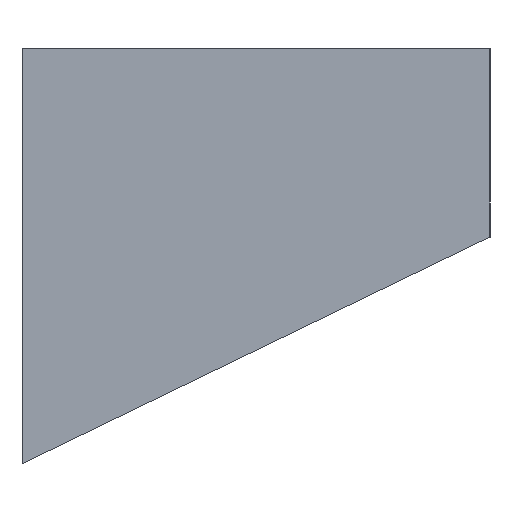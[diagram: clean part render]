
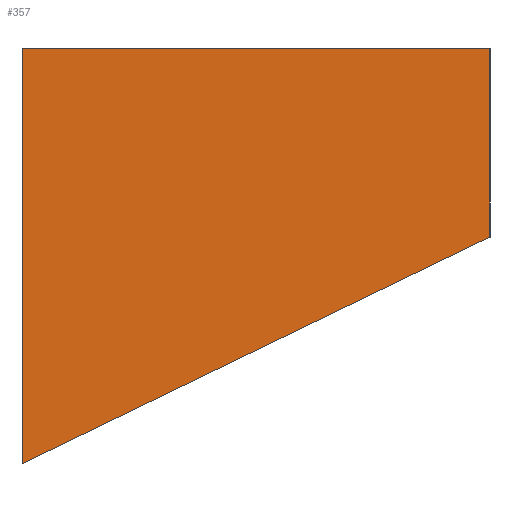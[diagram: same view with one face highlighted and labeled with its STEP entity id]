
A CAD part, left-side view. The second image highlights one B-rep face of the part: STEP entity #357.
In plain terms, the highlighted planar face has unit normal (-1, 0, 0).
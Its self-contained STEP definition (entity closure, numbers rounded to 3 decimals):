
#48 = VERTEX_POINT('',#49);
#49 = CARTESIAN_POINT('',(-36.,-36.5,-114.5));
#58 = PLANE('',#59);
#59 = AXIS2_PLACEMENT_3D('',#60,#61,#62);
#60 = CARTESIAN_POINT('',(-36.,-36.5,-114.5));
#61 = DIRECTION('',(0.,-1.,0.));
#62 = DIRECTION('',(0.,0.,1.));
#70 = PLANE('',#71);
#71 = AXIS2_PLACEMENT_3D('',#72,#73,#74);
#72 = CARTESIAN_POINT('',(-36.,-30.3,-117.5));
#73 = DIRECTION('',(0.,-0.436,-0.9));
#74 = DIRECTION('',(0.,-0.9,0.436));
#111 = VERTEX_POINT('',#112);
#112 = CARTESIAN_POINT('',(-36.,-36.5,-112.));
#126 = PLANE('',#127);
#127 = AXIS2_PLACEMENT_3D('',#128,#129,#130);
#128 = CARTESIAN_POINT('',(-36.,-36.5,-112.));
#129 = DIRECTION('',(0.,0.,1.));
#130 = DIRECTION('',(0.,1.,0.));
#138 = EDGE_CURVE('',#48,#111,#139,.T.);
#139 = SURFACE_CURVE('',#140,(#144,#151),.PCURVE_S1.);
#140 = LINE('',#141,#142);
#141 = CARTESIAN_POINT('',(-36.,-36.5,-114.5));
#142 = VECTOR('',#143,1.);
#143 = DIRECTION('',(0.,0.,1.));
#144 = PCURVE('',#58,#145);
#145 = DEFINITIONAL_REPRESENTATION('',(#146),#150);
#146 = LINE('',#147,#148);
#147 = CARTESIAN_POINT('',(0.,0.));
#148 = VECTOR('',#149,1.);
#149 = DIRECTION('',(1.,0.));
#150 = ( GEOMETRIC_REPRESENTATION_CONTEXT(2) 
PARAMETRIC_REPRESENTATION_CONTEXT() REPRESENTATION_CONTEXT('2D SPACE',''
  ) );
#151 = PCURVE('',#152,#157);
#152 = PLANE('',#153);
#153 = AXIS2_PLACEMENT_3D('',#154,#155,#156);
#154 = CARTESIAN_POINT('',(-36.,-32.959,-114.172));
#155 = DIRECTION('',(-1.,-0.,-0.));
#156 = DIRECTION('',(0.,0.,-1.));
#157 = DEFINITIONAL_REPRESENTATION('',(#158),#162);
#158 = LINE('',#159,#160);
#159 = CARTESIAN_POINT('',(0.328,3.541));
#160 = VECTOR('',#161,1.);
#161 = DIRECTION('',(-1.,0.));
#162 = ( GEOMETRIC_REPRESENTATION_CONTEXT(2) 
PARAMETRIC_REPRESENTATION_CONTEXT() REPRESENTATION_CONTEXT('2D SPACE',''
  ) );
#192 = VERTEX_POINT('',#193);
#193 = CARTESIAN_POINT('',(-36.,-30.3,-112.));
#207 = PLANE('',#208);
#208 = AXIS2_PLACEMENT_3D('',#209,#210,#211);
#209 = CARTESIAN_POINT('',(-36.,-30.3,-112.));
#210 = DIRECTION('',(-0.,1.,0.));
#211 = DIRECTION('',(0.,0.,-1.));
#219 = EDGE_CURVE('',#111,#192,#220,.T.);
#220 = SURFACE_CURVE('',#221,(#225,#232),.PCURVE_S1.);
#221 = LINE('',#222,#223);
#222 = CARTESIAN_POINT('',(-36.,-36.5,-112.));
#223 = VECTOR('',#224,1.);
#224 = DIRECTION('',(0.,1.,0.));
#225 = PCURVE('',#126,#226);
#226 = DEFINITIONAL_REPRESENTATION('',(#227),#231);
#227 = LINE('',#228,#229);
#228 = CARTESIAN_POINT('',(0.,0.));
#229 = VECTOR('',#230,1.);
#230 = DIRECTION('',(1.,0.));
#231 = ( GEOMETRIC_REPRESENTATION_CONTEXT(2) 
PARAMETRIC_REPRESENTATION_CONTEXT() REPRESENTATION_CONTEXT('2D SPACE',''
  ) );
#232 = PCURVE('',#152,#233);
#233 = DEFINITIONAL_REPRESENTATION('',(#234),#238);
#234 = LINE('',#235,#236);
#235 = CARTESIAN_POINT('',(-2.172,3.541));
#236 = VECTOR('',#237,1.);
#237 = DIRECTION('',(0.,-1.));
#238 = ( GEOMETRIC_REPRESENTATION_CONTEXT(2) 
PARAMETRIC_REPRESENTATION_CONTEXT() REPRESENTATION_CONTEXT('2D SPACE',''
  ) );
#268 = VERTEX_POINT('',#269);
#269 = CARTESIAN_POINT('',(-36.,-30.3,-117.5));
#290 = EDGE_CURVE('',#192,#268,#291,.T.);
#291 = SURFACE_CURVE('',#292,(#296,#303),.PCURVE_S1.);
#292 = LINE('',#293,#294);
#293 = CARTESIAN_POINT('',(-36.,-30.3,-112.));
#294 = VECTOR('',#295,1.);
#295 = DIRECTION('',(0.,0.,-1.));
#296 = PCURVE('',#207,#297);
#297 = DEFINITIONAL_REPRESENTATION('',(#298),#302);
#298 = LINE('',#299,#300);
#299 = CARTESIAN_POINT('',(0.,0.));
#300 = VECTOR('',#301,1.);
#301 = DIRECTION('',(1.,0.));
#302 = ( GEOMETRIC_REPRESENTATION_CONTEXT(2) 
PARAMETRIC_REPRESENTATION_CONTEXT() REPRESENTATION_CONTEXT('2D SPACE',''
  ) );
#303 = PCURVE('',#152,#304);
#304 = DEFINITIONAL_REPRESENTATION('',(#305),#309);
#305 = LINE('',#306,#307);
#306 = CARTESIAN_POINT('',(-2.172,-2.659));
#307 = VECTOR('',#308,1.);
#308 = DIRECTION('',(1.,0.));
#309 = ( GEOMETRIC_REPRESENTATION_CONTEXT(2) 
PARAMETRIC_REPRESENTATION_CONTEXT() REPRESENTATION_CONTEXT('2D SPACE',''
  ) );
#337 = EDGE_CURVE('',#268,#48,#338,.T.);
#338 = SURFACE_CURVE('',#339,(#343,#350),.PCURVE_S1.);
#339 = LINE('',#340,#341);
#340 = CARTESIAN_POINT('',(-36.,-30.3,-117.5));
#341 = VECTOR('',#342,1.);
#342 = DIRECTION('',(0.,-0.9,0.436));
#343 = PCURVE('',#70,#344);
#344 = DEFINITIONAL_REPRESENTATION('',(#345),#349);
#345 = LINE('',#346,#347);
#346 = CARTESIAN_POINT('',(0.,0.));
#347 = VECTOR('',#348,1.);
#348 = DIRECTION('',(1.,0.));
#349 = ( GEOMETRIC_REPRESENTATION_CONTEXT(2) 
PARAMETRIC_REPRESENTATION_CONTEXT() REPRESENTATION_CONTEXT('2D SPACE',''
  ) );
#350 = PCURVE('',#152,#351);
#351 = DEFINITIONAL_REPRESENTATION('',(#352),#356);
#352 = LINE('',#353,#354);
#353 = CARTESIAN_POINT('',(3.328,-2.659));
#354 = VECTOR('',#355,1.);
#355 = DIRECTION('',(-0.436,0.9));
#356 = ( GEOMETRIC_REPRESENTATION_CONTEXT(2) 
PARAMETRIC_REPRESENTATION_CONTEXT() REPRESENTATION_CONTEXT('2D SPACE',''
  ) );
#357 = ADVANCED_FACE('',(#358),#152,.T.);
#358 = FACE_BOUND('',#359,.T.);
#359 = EDGE_LOOP('',(#360,#361,#362,#363));
#360 = ORIENTED_EDGE('',*,*,#138,.T.);
#361 = ORIENTED_EDGE('',*,*,#219,.T.);
#362 = ORIENTED_EDGE('',*,*,#290,.T.);
#363 = ORIENTED_EDGE('',*,*,#337,.T.);
